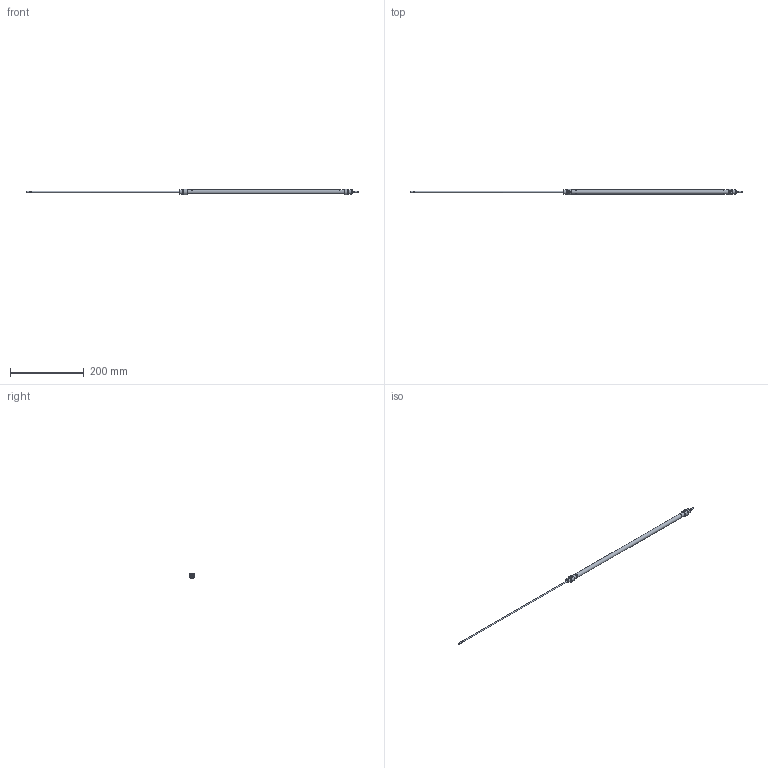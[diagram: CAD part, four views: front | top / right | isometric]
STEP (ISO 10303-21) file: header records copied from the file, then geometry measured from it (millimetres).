
FILE_DESCRIPTION( ( 'STEP AP203' ), '1' );
FILE_NAME( '//expscmdclustefs.cadenas.external/client_exchange/iodir/jobs/output/wkb68273513_no0/STEP/M101-010-0400--__0__2_03.stp', ' ', ( ' ' ), ( ' ' ), 'PSStep 15.0.47', 'PARTsolutions', ' ' );
FILE_SCHEMA( ( 'CONFIG_CONTROL_DESIGN' ) );
Length unit declared in the file: millimetre
Products named in the file (3): M101-010-0400-- [0]; HI_M101-010-0400---[0]-z; HI_M101-010-0400---[0]-k
Assembly tree (2 placements, depth 2):
  M101-010-0400-- [0]
    HI_M101-010-0400---[0]-z
    HI_M101-010-0400---[0]-k
Bounding box: 902 x 15.77 x 14.87 mm (x, y, z)
Volume: 27960.9 mm3; surface area: 42855.6 mm2
Topology: 2 solids, 2 shells, 71 faces, 145 edges, 88 vertices
Faces by surface type: plane 32, cylinder 23, cone 14, torus 2
Full cylindrical faces by diameter (mm): 3.141 x2, 4 x6, 4.134 x2, 10 x2, 10.466 x4, 11.3 x1, 12 x4
Entity records: 1838 total; most frequent: CARTESIAN_POINT 358, DIRECTION 312, ORIENTED_EDGE 212, AXIS2_PLACEMENT_3D 140, EDGE_LOOP 120, EDGE_CURVE 106, FACE_OUTER_BOUND 94, VERTEX_POINT 82
